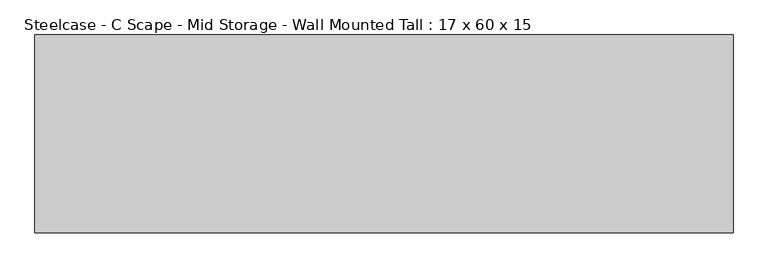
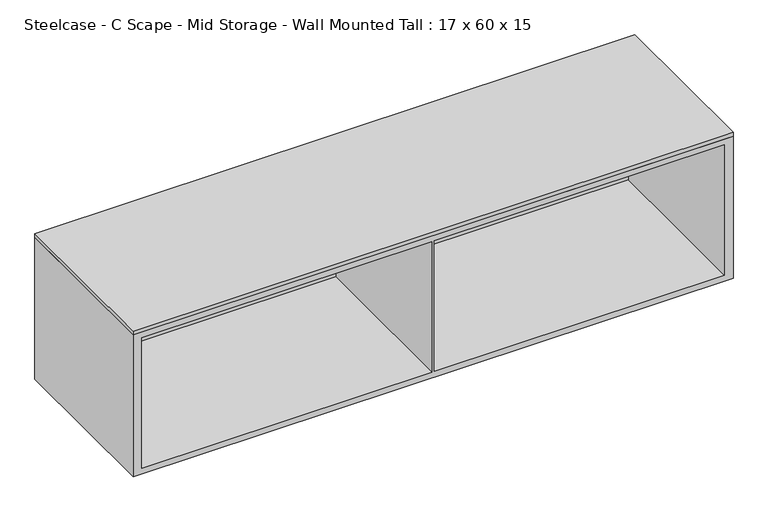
"""IFC4 building model written with IfcOpenShell, lengths in millimetres: furniture geometry, Steelcase - C Scape - Mid Storage - Wall Mounted Tall : 17 x 60 x 15."""

from ifc_helpers import new_model, si_unit, frame, origin, place, context, project, spatial, polyline, outline, extrude, faceted_brep, source, transform, mapped, element, save


def steelcase_c_scape_mid_storage_wall_mounted_tall_17_x_60_x_15_b212899a(model_context):
    return source(origin(), model_context, "Body", "SolidModel", [
        extrude(outline(polyline([(1524.0, 215.9), (1524.0, -215.9), (0.0, -215.9), (0.0, 215.9), (1524.0, 215.9)])), frame((0.0, 0.0, 1219.2), z_axis=(0.0, 0.0, 1.0), x_axis=(1.0, 0.0, 0.0)), (0.0, 0.0, 1.0), 10.16),
        faceted_brep([(0.0, -215.9, 1219.2), (0.0, -215.9, 838.2), (1524.0, -215.9, 838.2), (1524.0, -215.9, 1219.2), (21.9711633, -215.9, 1203.96), (758.825, -215.9, 1203.96), (758.825, -215.9, 853.4399855), (21.9711633, -215.9, 853.4399855), (1501.902, -215.9, 1203.96), (1501.902, -215.9, 853.4399855), (765.175, -215.9, 853.4399855), (765.175, -215.9, 1203.96), (1524.0, 215.9, 1219.2), (1524.0, 215.9, 838.2), (0.0, 215.9, 838.2), (0.0, 215.9, 1219.2), (1501.902, 206.3755809, 1203.96), (1501.902, 206.3755809, 853.4399855), (758.825, 206.3755809, 853.4399855), (21.9711633, 206.3755809, 853.4399855), (765.175, 206.3755809, 853.4399855), (21.9711633, 206.3755809, 1203.96), (758.825, 206.3755809, 1203.96), (765.175, 206.3755809, 1203.96)], [[[0, 1, 2, 3], [4, 5, 6, 7], [8, 9, 10, 11]], [[12, 13, 14, 15]], [[0, 3, 12, 15]], [[1, 0, 15, 14]], [[2, 1, 14, 13]], [[3, 2, 13, 12]], [[9, 8, 16, 17]], [[7, 6, 18, 19]], [[10, 9, 17, 20]], [[4, 7, 19, 21]], [[5, 4, 21, 22]], [[8, 11, 23, 16]], [[18, 22, 21, 19]], [[6, 5, 22, 18]], [[11, 10, 20, 23]], [[23, 20, 17, 16]]]),
    ])


if __name__ == "__main__":
    model = new_model("IFC4")
    model_context = context("Model", 3, world=origin())
    ifc_project = project(units=[si_unit("LENGTHUNIT", "METRE", prefix="MILLI")], contexts=[model_context])
    site = spatial("IfcSite", under=ifc_project)
    building = spatial("IfcBuilding", under=site)
    placement = place(None, origin())
    steelcase_c_scape_mid_storage_wall_mounted_tall_17_x_60_x_15_shape = steelcase_c_scape_mid_storage_wall_mounted_tall_17_x_60_x_15_b212899a(model_context)
    element("IfcFurniture", 1, ObjectType="Steelcase - C Scape - Mid Storage - Wall Mounted Tall : 17 x 60 x 15", at=placement, inside=building, context=model_context, shape_type="MappedRepresentation", body=[
        mapped(steelcase_c_scape_mid_storage_wall_mounted_tall_17_x_60_x_15_shape, transform((0.0, 0.0, 0.0), x_axis=(1.0, 0.0, 0.0), y_axis=(0.0, 1.0, 0.0), z_axis=(0.0, 0.0, 1.0))),
    ])
    save(model, "model.ifc")
